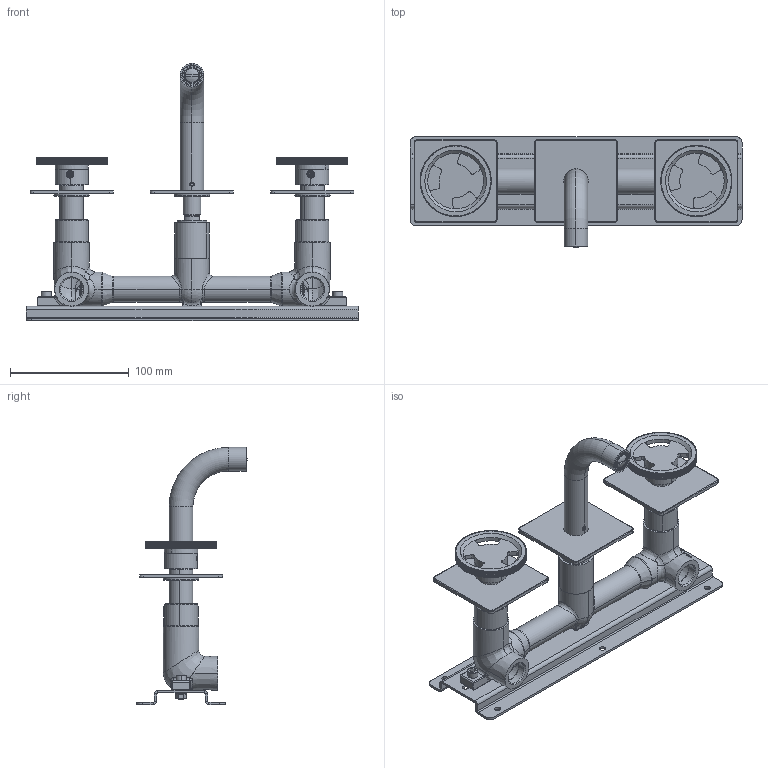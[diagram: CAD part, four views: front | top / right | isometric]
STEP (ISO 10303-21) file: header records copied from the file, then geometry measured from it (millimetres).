
FILE_DESCRIPTION (( 'STEP AP203' ), '1' );
FILE_NAME ('TBN56.STEP', '2023-11-24T14:44:10', ( '' ), ( '' ), 'SwSTEP 2.0', 'SolidWorks 2021', '' );
FILE_SCHEMA (( 'CONFIG_CONTROL_DESIGN' ));
Length unit declared in the file: millimetre
Products named in the file (22): TBN56; AS542_00; C24.1955.00.1; C18.27.0000; C25.2102.00.1; C12.00.0051; C34.00.0018; C24.1930.00.0; C24.1896.00.0; C11.14.0003; C11.10.0018; C34.00.0017; C13.00.0043; C21.1428.00.0; C11.12.0020; C24.2659.00; C24.1464.00.1; C11.11.0009; ISN56; C24.1474.00.1; C12.00.0008; C12.00.0020
Assembly tree (32 placements, depth 3):
  TBN56
    C24.1930.00.0
    C13.00.0043
    C11.14.0003
    ISN56
      C24.1955.00.1
      C34.00.0018
      C34.00.0017
      C12.00.0008
      C12.00.0051  x3
      C21.1428.00.0
      C18.27.0000
      C25.2102.00.1
      C11.10.0018  x2
      C11.12.0020  x2
      C11.11.0009  x2
    AS542_00  x2
      C24.1474.00.1
      C24.1464.00.1
    C12.00.0020  x3
    C24.1896.00.0  x2
    C24.2659.00  x3
Bounding box: 280 x 93.49 x 217 mm (x, y, z)
Volume: 303988.4 mm3; surface area: 224113.3 mm2
Topology: 32 solids, 34 shells, 2973 faces, 7907 edges, 5067 vertices
Faces by surface type: plane 1486, cylinder 1002, torus 185, bspline 142, cone 136, sphere 22
Entity records: 76047 total; most frequent: CARTESIAN_POINT 22913, ORIENTED_EDGE 10672, DIRECTION 10578, EDGE_CURVE 5336, AXIS2_PLACEMENT_3D 3721, VERTEX_POINT 3393, LINE 3136, VECTOR 3136
